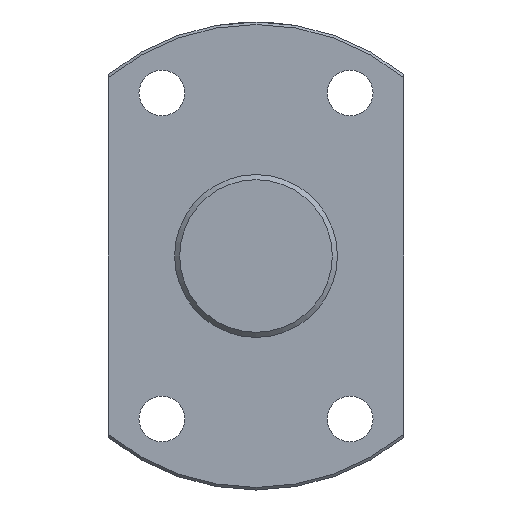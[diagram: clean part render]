
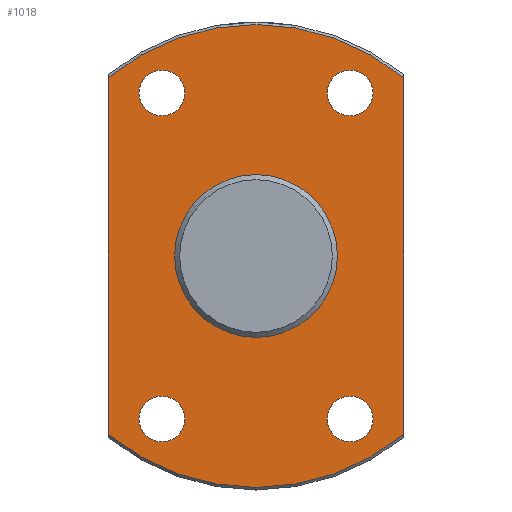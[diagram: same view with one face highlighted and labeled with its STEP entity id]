
A CAD part, left-side view. The second image highlights one B-rep face of the part: STEP entity #1018.
In plain terms, the highlighted planar face has unit normal (-1, 0, 0).
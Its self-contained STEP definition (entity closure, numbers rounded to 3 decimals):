
#315=CARTESIAN_POINT('',(436.777,-29.,35.061));
#316=VERTEX_POINT('',#315);
#341=CARTESIAN_POINT('',(436.777,29.,35.061));
#342=VERTEX_POINT('',#341);
#356=CARTESIAN_POINT('',(436.777,0.0,0.0));
#357=DIRECTION('',(1.0,0.0,0.0));
#358=DIRECTION('',(0.0,1.0,0.0));
#359=AXIS2_PLACEMENT_3D('',#356,#357,#358);
#360=CIRCLE('',#359,45.5);
#361=EDGE_CURVE('',#342,#316,#360,.T.);
#478=CARTESIAN_POINT('',(436.777,-29.,-35.061));
#479=VERTEX_POINT('',#478);
#480=CARTESIAN_POINT('',(436.777,-29.,35.061));
#481=DIRECTION('',(0.0,0.0,-1.0));
#482=VECTOR('',#481,70.121);
#483=LINE('',#480,#482);
#484=EDGE_CURVE('',#316,#479,#483,.T.);
#560=CARTESIAN_POINT('',(436.777,29.,-35.061));
#561=VERTEX_POINT('',#560);
#585=CARTESIAN_POINT('',(436.777,0.0,0.0));
#586=DIRECTION('',(1.0,0.0,0.0));
#587=DIRECTION('',(0.0,1.0,0.0));
#588=AXIS2_PLACEMENT_3D('',#585,#586,#587);
#589=CIRCLE('',#588,45.5);
#590=EDGE_CURVE('',#479,#561,#589,.T.);
#671=CARTESIAN_POINT('',(436.777,29.,-35.061));
#672=DIRECTION('',(0.0,0.0,1.0));
#673=VECTOR('',#672,70.121);
#674=LINE('',#671,#673);
#675=EDGE_CURVE('',#561,#342,#674,.T.);
#900=CARTESIAN_POINT('',(436.777,16.0,0.));
#901=VERTEX_POINT('',#900);
#902=CARTESIAN_POINT('',(436.777,0.0,0.0));
#903=DIRECTION('',(1.0,0.0,0.0));
#904=DIRECTION('',(0.0,-1.0,0.0));
#905=AXIS2_PLACEMENT_3D('',#902,#903,#904);
#906=CIRCLE('',#905,16.0);
#907=EDGE_CURVE('',#901,#901,#906,.T.);
#920=CARTESIAN_POINT('',(436.777,23.,-32.043));
#921=VERTEX_POINT('',#920);
#922=CARTESIAN_POINT('',(436.777,18.5,-32.043));
#923=DIRECTION('',(1.0,0.0,0.0));
#924=DIRECTION('',(0.0,1.0,0.0));
#925=AXIS2_PLACEMENT_3D('',#922,#923,#924);
#926=CIRCLE('',#925,4.5);
#927=EDGE_CURVE('',#921,#921,#926,.T.);
#940=CARTESIAN_POINT('',(436.777,-14.,32.043));
#941=VERTEX_POINT('',#940);
#942=CARTESIAN_POINT('',(436.777,-18.5,32.043));
#943=DIRECTION('',(1.0,0.0,0.0));
#944=DIRECTION('',(0.0,1.0,0.0));
#945=AXIS2_PLACEMENT_3D('',#942,#943,#944);
#946=CIRCLE('',#945,4.5);
#947=EDGE_CURVE('',#941,#941,#946,.T.);
#960=CARTESIAN_POINT('',(436.777,23.,32.043));
#961=VERTEX_POINT('',#960);
#962=CARTESIAN_POINT('',(436.777,18.5,32.043));
#963=DIRECTION('',(1.0,0.0,0.0));
#964=DIRECTION('',(0.0,1.0,0.0));
#965=AXIS2_PLACEMENT_3D('',#962,#963,#964);
#966=CIRCLE('',#965,4.5);
#967=EDGE_CURVE('',#961,#961,#966,.T.);
#980=CARTESIAN_POINT('',(436.777,-14.,-32.043));
#981=VERTEX_POINT('',#980);
#982=CARTESIAN_POINT('',(436.777,-18.5,-32.043));
#983=DIRECTION('',(1.0,0.0,0.0));
#984=DIRECTION('',(0.0,1.0,0.0));
#985=AXIS2_PLACEMENT_3D('',#982,#983,#984);
#986=CIRCLE('',#985,4.5);
#987=EDGE_CURVE('',#981,#981,#986,.T.);
#992=CARTESIAN_POINT('',(436.777,0.0,0.0));
#993=DIRECTION('',(-1.0,0.0,0.0));
#994=DIRECTION('',(0.0,0.0,1.0));
#995=AXIS2_PLACEMENT_3D('',#992,#993,#994);
#996=PLANE('',#995);
#997=ORIENTED_EDGE('',*,*,#361,.F.);
#998=ORIENTED_EDGE('',*,*,#675,.F.);
#999=ORIENTED_EDGE('',*,*,#590,.F.);
#1000=ORIENTED_EDGE('',*,*,#484,.F.);
#1001=EDGE_LOOP('',(#997,#998,#999,#1000));
#1002=FACE_OUTER_BOUND('',#1001,.T.);
#1003=ORIENTED_EDGE('',*,*,#907,.T.);
#1004=EDGE_LOOP('',(#1003));
#1005=FACE_BOUND('',#1004,.T.);
#1006=ORIENTED_EDGE('',*,*,#927,.T.);
#1007=EDGE_LOOP('',(#1006));
#1008=FACE_BOUND('',#1007,.T.);
#1009=ORIENTED_EDGE('',*,*,#947,.T.);
#1010=EDGE_LOOP('',(#1009));
#1011=FACE_BOUND('',#1010,.T.);
#1012=ORIENTED_EDGE('',*,*,#967,.T.);
#1013=EDGE_LOOP('',(#1012));
#1014=FACE_BOUND('',#1013,.T.);
#1015=ORIENTED_EDGE('',*,*,#987,.T.);
#1016=EDGE_LOOP('',(#1015));
#1017=FACE_BOUND('',#1016,.T.);
#1018=ADVANCED_FACE('',(#1002,#1005,#1008,#1011,#1014,#1017),#996,.T.);
